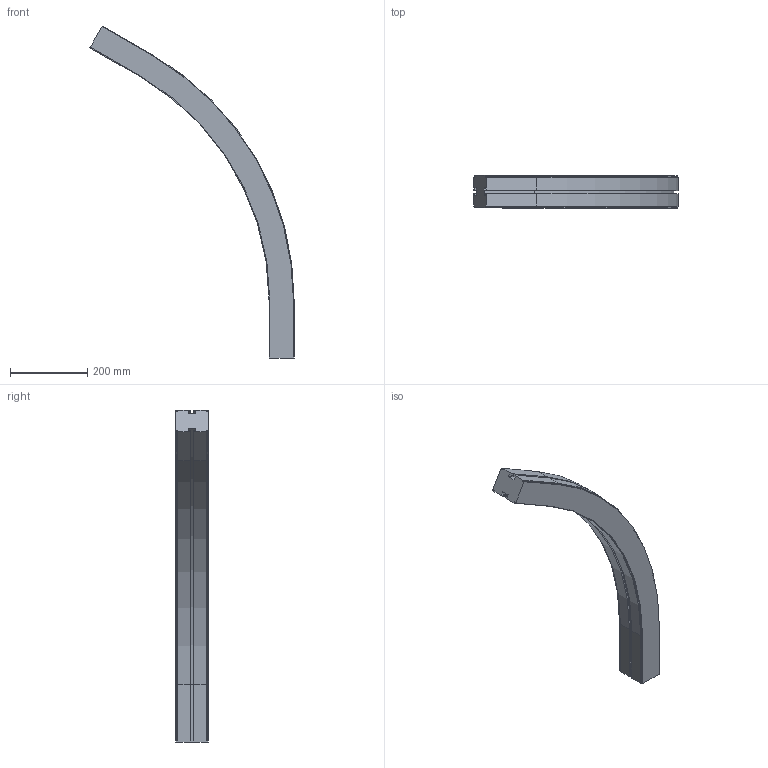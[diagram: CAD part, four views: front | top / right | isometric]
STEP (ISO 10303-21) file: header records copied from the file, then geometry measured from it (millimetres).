
FILE_DESCRIPTION (( 'STEP AP214' ), '1' );
FILE_NAME ('CS SL Horizontaalbocht.65 60° R700.STEP', '2017-02-08T07:35:29', ( '' ), ( '' ), 'SwSTEP 2.0', 'SolidWorks 2016', '' );
FILE_SCHEMA (( 'AUTOMOTIVE_DESIGN' ));
Length unit declared in the file: millimetre
Products named in the file (1): CS SL Horizontaalbocht.65 60° R700
Bounding box: 528.65 x 84 x 859.36 mm (x, y, z)
Volume: 5221626.3 mm3; surface area: 427415.2 mm2
Topology: 1 solids, 1 shells, 98 faces, 272 edges, 176 vertices
Faces by surface type: plane 72, cylinder 18, cone 8
Entity records: 3126 total; most frequent: CARTESIAN_POINT 547, ORIENTED_EDGE 544, DIRECTION 514, EDGE_CURVE 272, VECTOR 228, LINE 228, VERTEX_POINT 176, AXIS2_PLACEMENT_3D 143
